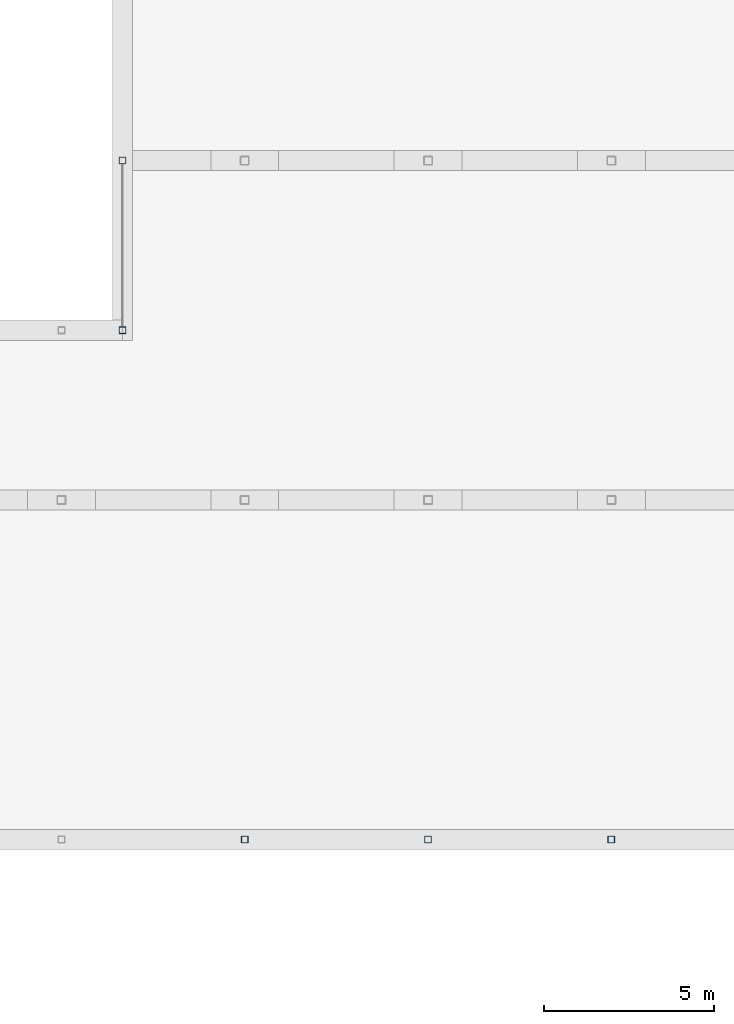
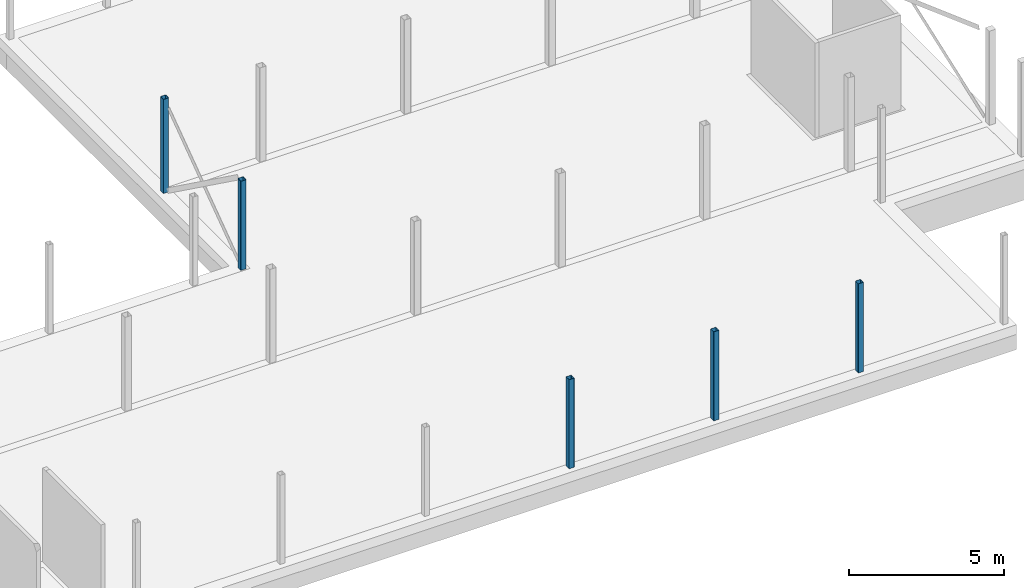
# One storey, part 2 of 12: 5 columns.
"""IFC2X3 building model written with IfcOpenShell, lengths in millimetres."""

from ifc_helpers import new_model, entity, si_unit, converted_unit, derived_unit, direction, frame, frame_2d, origin, place, context, subcontext, project, spatial, polyline, circle_curve, parameter, trimmed, segment, composite_curve, outline, extrude, source, transform, mapped, material, type_object, type_shapes, element, save


model = new_model("IFC2X3")

# Units and contexts
model_context = context("Model", 3, precision=0.01, world=origin(), true_north=direction((6.123031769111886e-17, 1.0)))
body_context = subcontext(model_context, "Body", "Model", "MODEL_VIEW")
ifc_project = project(units=[si_unit("LENGTHUNIT", "METRE", prefix="MILLI"), si_unit("AREAUNIT", "SQUARE_METRE"), si_unit("VOLUMEUNIT", "CUBIC_METRE"), converted_unit("PLANEANGLEUNIT", "DEGREE", entity("IfcPlaneAngleMeasure", 0.017453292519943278), si_unit("PLANEANGLEUNIT", "RADIAN"), dimensions=[0, 0, 0, 0, 0, 0, 0]), si_unit("MASSUNIT", "GRAM", prefix="KILO"), derived_unit("MASSDENSITYUNIT", [(si_unit("MASSUNIT", "GRAM", prefix="KILO"), 1), (si_unit("LENGTHUNIT", "METRE"), -3)]), derived_unit("IONCONCENTRATIONUNIT", [(si_unit("MASSUNIT", "GRAM", prefix="KILO"), 1), (si_unit("LENGTHUNIT", "METRE"), -3)]), derived_unit("MOMENTOFINERTIAUNIT", [(si_unit("LENGTHUNIT", "METRE"), 4)]), si_unit("TIMEUNIT", "SECOND"), si_unit("FREQUENCYUNIT", "HERTZ"), si_unit("THERMODYNAMICTEMPERATUREUNIT", "DEGREE_CELSIUS"), derived_unit("THERMALTRANSMITTANCEUNIT", [(si_unit("MASSUNIT", "GRAM", prefix="KILO"), 1), (si_unit("THERMODYNAMICTEMPERATUREUNIT", "KELVIN"), -1), (si_unit("TIMEUNIT", "SECOND"), -3)]), derived_unit("THERMALCONDUCTANCEUNIT", [(si_unit("MASSUNIT", "GRAM", prefix="KILO"), 1), (si_unit("THERMODYNAMICTEMPERATUREUNIT", "KELVIN"), -1), (si_unit("TIMEUNIT", "SECOND"), -3), (si_unit("LENGTHUNIT", "METRE"), 1)]), derived_unit("VOLUMETRICFLOWRATEUNIT", [(si_unit("LENGTHUNIT", "METRE", prefix="DECI"), 3), (si_unit("TIMEUNIT", "SECOND"), -1)]), derived_unit("MASSFLOWRATEUNIT", [(si_unit("MASSUNIT", "GRAM", prefix="KILO"), 1), (si_unit("TIMEUNIT", "SECOND"), -1)]), derived_unit("ROTATIONALFREQUENCYUNIT", [(si_unit("TIMEUNIT", "SECOND"), -1)]), si_unit("ELECTRICCURRENTUNIT", "AMPERE"), si_unit("ELECTRICVOLTAGEUNIT", "VOLT"), si_unit("POWERUNIT", "WATT"), si_unit("FORCEUNIT", "NEWTON", prefix="KILO"), si_unit("ILLUMINANCEUNIT", "LUX"), si_unit("LUMINOUSFLUXUNIT", "LUMEN"), si_unit("LUMINOUSINTENSITYUNIT", "CANDELA"), si_unit("ENERGYUNIT", "JOULE"), derived_unit("USERDEFINED", [(si_unit("MASSUNIT", "GRAM", prefix="KILO"), -1), (si_unit("LENGTHUNIT", "METRE"), -2), (si_unit("TIMEUNIT", "SECOND"), 3), (si_unit("LUMINOUSFLUXUNIT", "LUMEN"), 1)]), derived_unit("USERDEFINED", [(si_unit("MASSUNIT", "GRAM", prefix="KILO"), 1), (si_unit("TIMEUNIT", "SECOND"), -3), (si_unit("LENGTHUNIT", "METRE"), 3), (si_unit("ELECTRICCURRENTUNIT", "AMPERE"), -2)]), derived_unit("SOUNDPOWERUNIT", [(si_unit("MASSUNIT", "GRAM", prefix="KILO"), 1), (si_unit("TIMEUNIT", "SECOND"), -3), (si_unit("LENGTHUNIT", "METRE"), 2)]), derived_unit("SOUNDPRESSUREUNIT", [(si_unit("MASSUNIT", "GRAM", prefix="KILO"), 1), (si_unit("LENGTHUNIT", "METRE"), -1), (si_unit("TIMEUNIT", "SECOND"), -2)]), derived_unit("LINEARVELOCITYUNIT", [(si_unit("LENGTHUNIT", "METRE"), 1), (si_unit("TIMEUNIT", "SECOND"), -1)]), si_unit("PRESSUREUNIT", "PASCAL"), derived_unit("USERDEFINED", [(si_unit("MASSUNIT", "GRAM", prefix="KILO"), 1), (si_unit("LENGTHUNIT", "METRE"), -2), (si_unit("TIMEUNIT", "SECOND"), -2)]), derived_unit("LINEARFORCEUNIT", [(si_unit("MASSUNIT", "GRAM", prefix="KILO"), 1), (si_unit("TIMEUNIT", "SECOND"), -2)]), derived_unit("PLANARFORCEUNIT", [(si_unit("MASSUNIT", "GRAM", prefix="KILO"), 1), (si_unit("LENGTHUNIT", "METRE"), -1), (si_unit("TIMEUNIT", "SECOND"), -2)]), derived_unit("SPECIFICHEATCAPACITYUNIT", [(si_unit("THERMODYNAMICTEMPERATUREUNIT", "KELVIN"), -1), (si_unit("LENGTHUNIT", "METRE"), 2), (si_unit("TIMEUNIT", "SECOND"), -2)]), derived_unit("HEATFLUXDENSITYUNIT", [(si_unit("MASSUNIT", "GRAM", prefix="KILO"), 1), (si_unit("TIMEUNIT", "SECOND"), -3)]), derived_unit("HEATINGVALUEUNIT", [(si_unit("LENGTHUNIT", "METRE"), 2), (si_unit("TIMEUNIT", "SECOND"), -2)]), derived_unit("VAPORPERMEABILITYUNIT", [(si_unit("LENGTHUNIT", "METRE"), -1), (si_unit("TIMEUNIT", "SECOND"), 1)]), derived_unit("DYNAMICVISCOSITYUNIT", [(si_unit("MASSUNIT", "GRAM", prefix="KILO"), 1), (si_unit("TIMEUNIT", "SECOND"), -1), (si_unit("LENGTHUNIT", "METRE"), -1)]), derived_unit("THERMALEXPANSIONCOEFFICIENTUNIT", [(si_unit("THERMODYNAMICTEMPERATUREUNIT", "KELVIN"), -1)]), derived_unit("MODULUSOFELASTICITYUNIT", [(si_unit("MASSUNIT", "GRAM", prefix="KILO"), 1), (si_unit("LENGTHUNIT", "METRE"), -1), (si_unit("TIMEUNIT", "SECOND"), -2)]), derived_unit("ISOTHERMALMOISTURECAPACITYUNIT", [(si_unit("MASSUNIT", "GRAM", prefix="KILO"), -1), (si_unit("LENGTHUNIT", "METRE"), 3)]), derived_unit("MOISTUREDIFFUSIVITYUNIT", [(si_unit("TIMEUNIT", "SECOND"), -1), (si_unit("LENGTHUNIT", "METRE"), 2)]), derived_unit("MASSPERLENGTHUNIT", [(si_unit("MASSUNIT", "GRAM", prefix="KILO"), 1), (si_unit("LENGTHUNIT", "METRE"), -1)]), derived_unit("THERMALRESISTANCEUNIT", [(si_unit("MASSUNIT", "GRAM", prefix="KILO"), -1), (si_unit("TIMEUNIT", "SECOND"), 3), (si_unit("THERMODYNAMICTEMPERATUREUNIT", "KELVIN"), 1)]), derived_unit("ACCELERATIONUNIT", [(si_unit("LENGTHUNIT", "METRE"), 1), (si_unit("TIMEUNIT", "SECOND"), -2)]), derived_unit("ANGULARVELOCITYUNIT", [(si_unit("TIMEUNIT", "SECOND"), -1), (si_unit("PLANEANGLEUNIT", "RADIAN"), 1)]), derived_unit("LINEARSTIFFNESSUNIT", [(si_unit("MASSUNIT", "GRAM", prefix="KILO"), 1), (si_unit("TIMEUNIT", "SECOND"), -2)]), derived_unit("WARPINGCONSTANTUNIT", [(si_unit("LENGTHUNIT", "METRE"), 6)]), derived_unit("LINEARMOMENTUNIT", [(si_unit("MASSUNIT", "GRAM", prefix="KILO"), 1), (si_unit("LENGTHUNIT", "METRE"), 1), (si_unit("TIMEUNIT", "SECOND"), -2)]), derived_unit("TORQUEUNIT", [(si_unit("MASSUNIT", "GRAM", prefix="KILO"), 1), (si_unit("LENGTHUNIT", "METRE"), 2), (si_unit("TIMEUNIT", "SECOND"), -2)])], contexts=[model_context])

# Site, building, storey
site_placement = place(None, origin())
site = spatial("IfcSite", under=ifc_project, at=site_placement, Name="Default", CompositionType="ELEMENT")
building_placement = place(site_placement, origin())
building = spatial("IfcBuilding", under=site, at=building_placement, CompositionType="ELEMENT")
storey_placement = place(building_placement, origin())
storey = spatial("IfcBuildingStorey", under=building, at=storey_placement, Name="00 begane grond", CompositionType="ELEMENT", Elevation=0.0)

# Columns
ifc_material = material(Name="VRI_staal")
column_type_1 = type_object("IfcColumnType", Name="28_SC_VRI_kolom_staal_koker:K200x200x8", PredefinedType="COLUMN", material=ifc_material)
shared_shape_1 = source(origin(), body_context, "Body", "SweptSolid", [
    extrude(outline(composite_curve([segment(polyline([(-88.0, -100.0), (88.0, -100.0)]), True, "CONTINUOUS"), segment(trimmed(circle_curve(frame_2d((88.0, -88.0), x_axis=(0.0, -1.0)), 12.0), [parameter(359.9999999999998)], [parameter(89.99999999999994)], True, "PARAMETER"), True, "CONTINUOUS"), segment(polyline([(100.0, -88.0), (100.0, 88.0)]), True, "CONTINUOUS"), segment(trimmed(circle_curve(frame_2d((88.0, 88.0), x_axis=(0.0, -1.0)), 12.0), [parameter(90.00000000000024)], [parameter(180.0000000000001)], True, "PARAMETER"), True, "CONTINUOUS"), segment(polyline([(88.0, 100.0), (-88.0, 100.0)]), True, "CONTINUOUS"), segment(trimmed(circle_curve(frame_2d((-88.0, 88.0), x_axis=(0.0, -1.0)), 12.0), [parameter(179.99999999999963)], [parameter(269.9999999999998)], True, "PARAMETER"), True, "CONTINUOUS"), segment(polyline([(-100.0, 88.0), (-100.0, -88.0)]), True, "CONTINUOUS"), segment(trimmed(circle_curve(frame_2d((-88.0, -88.0), x_axis=(0.0, -1.0)), 12.0), [parameter(270.00000000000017)], [parameter(1.0177774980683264e-13)], True, "PARAMETER"), True, "CONTINUOUS")], self_intersect=False), holes=[composite_curve([segment(trimmed(circle_curve(frame_2d((-88.0, 88.0), x_axis=(0.0, -1.0)), 4.0), [parameter(180.0000000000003)], [parameter(270.0000000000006)], True, "PARAMETER"), False, "CONTINUOUS"), segment(polyline([(-88.0, 92.0), (88.0, 92.0)]), True, "CONTINUOUS"), segment(trimmed(circle_curve(frame_2d((88.0, 88.0), x_axis=(0.0, -1.0)), 4.0), [parameter(90.00000000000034)], [parameter(179.99999999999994)], True, "PARAMETER"), False, "CONTINUOUS"), segment(polyline([(92.0, 88.0), (92.0, -88.0)]), True, "CONTINUOUS"), segment(trimmed(circle_curve(frame_2d((88.0, -88.0), x_axis=(0.0, -1.0)), 4.0), [parameter(5.088887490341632e-13)], [parameter(90.00000000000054)], True, "PARAMETER"), False, "CONTINUOUS"), segment(polyline([(88.0, -92.0), (-88.0, -92.0)]), True, "CONTINUOUS"), segment(trimmed(circle_curve(frame_2d((-88.0, -88.0), x_axis=(0.0, -1.0)), 4.0), [parameter(269.9999999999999)], [parameter(0.0)], True, "PARAMETER"), False, "CONTINUOUS"), segment(polyline([(-92.0, -88.0), (-92.0, 88.0)]), True, "CONTINUOUS")], self_intersect=False)]), frame((-5.0, 0.0, -80.0), z_axis=(0.0, 0.0, 1.0), x_axis=(0.0, 1.0, 0.0)), (0.0, 0.0, 1.0), 3515.0),
])
type_shapes(column_type_1, [shared_shape_1])
for number, where in (
    (1, (37005.0, 10000.0, 0.0)),
    (2, (42405.0, 10000.0, 0.0)),
    (3, (33405.0, 25000.0, 0.0)),
    (4, (47805.0, 10000.0, 0.0)),
):
    element("IfcColumn", number, at=place(storey_placement, frame(where)), inside=storey, type_object=column_type_1, material=ifc_material, Name="28_SC_VRI_kolom_staal_koker:K200x200x8", ObjectType="28_SC_VRI_kolom_staal_koker:K200x200x8", context=body_context, shape_type="MappedRepresentation", body=[
        mapped(shared_shape_1, transform((0.0, 0.0, 0.0), scale=1.0)),
    ])
column_type_2 = type_object("IfcColumnType", Name="28_SC_VRI_kolom_staal_koker:K200x200x8", PredefinedType="COLUMN", material=ifc_material)
shared_shape_2 = source(origin(), body_context, "Body", "SweptSolid", [
    extrude(outline(composite_curve([segment(polyline([(-88.0, -100.0), (88.0, -100.0)]), True, "CONTINUOUS"), segment(trimmed(circle_curve(frame_2d((88.0, -88.0), x_axis=(0.0, -1.0)), 12.0), [parameter(359.9999999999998)], [parameter(89.99999999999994)], True, "PARAMETER"), True, "CONTINUOUS"), segment(polyline([(100.0, -88.0), (100.0, 88.0)]), True, "CONTINUOUS"), segment(trimmed(circle_curve(frame_2d((88.0, 88.0), x_axis=(0.0, -1.0)), 12.0), [parameter(90.00000000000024)], [parameter(180.0000000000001)], True, "PARAMETER"), True, "CONTINUOUS"), segment(polyline([(88.0, 100.0), (-88.0, 100.0)]), True, "CONTINUOUS"), segment(trimmed(circle_curve(frame_2d((-88.0, 88.0), x_axis=(0.0, -1.0)), 12.0), [parameter(179.99999999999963)], [parameter(269.9999999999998)], True, "PARAMETER"), True, "CONTINUOUS"), segment(polyline([(-100.0, 88.0), (-100.0, -88.0)]), True, "CONTINUOUS"), segment(trimmed(circle_curve(frame_2d((-88.0, -88.0), x_axis=(0.0, -1.0)), 12.0), [parameter(270.00000000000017)], [parameter(1.0177774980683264e-13)], True, "PARAMETER"), True, "CONTINUOUS")], self_intersect=False), holes=[composite_curve([segment(trimmed(circle_curve(frame_2d((-88.0, 88.0), x_axis=(0.0, -1.0)), 4.0), [parameter(180.0000000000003)], [parameter(270.0000000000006)], True, "PARAMETER"), False, "CONTINUOUS"), segment(polyline([(-88.0, 92.0), (88.0, 92.0)]), True, "CONTINUOUS"), segment(trimmed(circle_curve(frame_2d((88.0, 88.0), x_axis=(0.0, -1.0)), 4.0), [parameter(90.00000000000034)], [parameter(179.99999999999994)], True, "PARAMETER"), False, "CONTINUOUS"), segment(polyline([(92.0, 88.0), (92.0, -88.0)]), True, "CONTINUOUS"), segment(trimmed(circle_curve(frame_2d((88.0, -88.0), x_axis=(0.0, -1.0)), 4.0), [parameter(5.088887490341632e-13)], [parameter(90.00000000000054)], True, "PARAMETER"), False, "CONTINUOUS"), segment(polyline([(88.0, -92.0), (-88.0, -92.0)]), True, "CONTINUOUS"), segment(trimmed(circle_curve(frame_2d((-88.0, -88.0), x_axis=(0.0, -1.0)), 4.0), [parameter(269.9999999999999)], [parameter(0.0)], True, "PARAMETER"), False, "CONTINUOUS"), segment(polyline([(-92.0, -88.0), (-92.0, 88.0)]), True, "CONTINUOUS")], self_intersect=False)]), frame((-5.0, 0.0, -80.0), z_axis=(0.0, 0.0, 1.0), x_axis=(0.0, 1.0, 0.0)), (0.0, 0.0, 1.0), 3715.0),
])
type_shapes(column_type_2, [shared_shape_2])
column_placement = place(storey_placement, frame((33405.0, 30000.0, 0.0)))
element("IfcColumn", 5, at=column_placement, inside=storey, type_object=column_type_2, material=ifc_material, Name="28_SC_VRI_kolom_staal_koker:K200x200x8", ObjectType="28_SC_VRI_kolom_staal_koker:K200x200x8", context=body_context, shape_type="MappedRepresentation", body=[
    mapped(shared_shape_2, transform((0.0, 0.0, 0.0), scale=1.0)),
])

save(model, "model.ifc")
